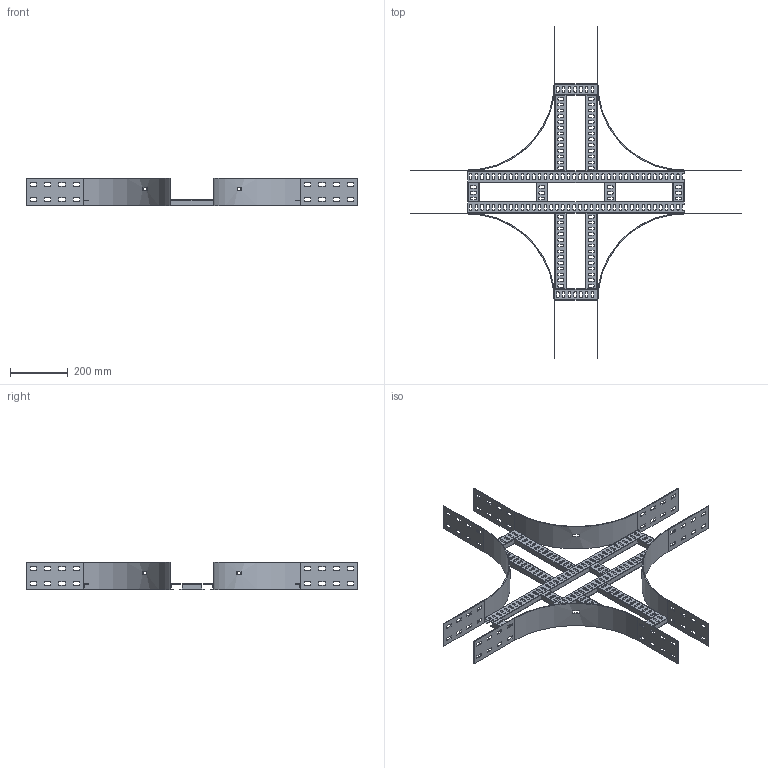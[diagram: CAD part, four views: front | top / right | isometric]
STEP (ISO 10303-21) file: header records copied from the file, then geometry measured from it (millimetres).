
FILE_DESCRIPTION(/* description */ ('','CAx-IF Rec.Pracs.---Representation and Presentation of Product Manufacturing Information (PMI)---4.0---2014-10-13'),/* implementation_level */ '2;1');
FILE_NAME(/* name */ 'Eurostrut_ECO100-100-300_Crossover for Cable Ladder ECL.step',/* time_stamp */ '2026-09-03T13:26:13+02:00',/* author */ (''),/* organization */ (''),/* preprocessor_version */ 'ST-DEVELOPER v20.1',/* originating_system */ 'Autodesk Revit 2027 27.2.0.39',/* authorisation */ '');
FILE_SCHEMA (('AP242_MANAGED_MODEL_BASED_3D_ENGINEERING_MIM_LF { 1 0 10303 442 2 1 4 }'));
Length unit declared in the file: millimetre
Products named in the file (10): TopLevelAssembly; Sweep; Sweep_1; Sweep_2; Sweep_3; Eurostrut_Cable Ladder_Rung_With slots; Eurostrut_Cable Ladder_Rung_With slots_1; Eurostrut_Cable Ladder_Rung Array Straight_Slotted; Eurostrut_Cable Ladder_Rung Array Straight_Slotted_1; Eurostrut_Cable Ladder_Accessory End_54-94-142
Assembly tree (19 placements, depth 2):
  TopLevelAssembly
    Sweep
    Sweep_1
    Eurostrut_Cable Ladder_Rung_With slots  x2
    Eurostrut_Cable Ladder_Rung_With slots_1  x2
    Sweep_2
    Sweep_3
    Eurostrut_Cable Ladder_Rung Array Straight_Slotted
    Eurostrut_Cable Ladder_Rung Array Straight_Slotted_1  x2
    Eurostrut_Cable Ladder_Accessory End_54-94-142  x8
Bounding box: 1152 x 1152 x 94 mm (x, y, z)
Volume: 1317911 mm3; surface area: 1199386.1 mm2
Topology: 24 solids, 24 shells, 1176 faces, 3384 edges, 2256 vertices
Faces by surface type: plane 812, bspline 308, cylinder 56
Entity records: 23370 total; most frequent: CARTESIAN_POINT 8313, ORIENTED_EDGE 3168, DIRECTION 2846, EDGE_CURVE 1584, LINE 1156, VECTOR 1156, VERTEX_POINT 1056, AXIS2_PLACEMENT_3D 845
